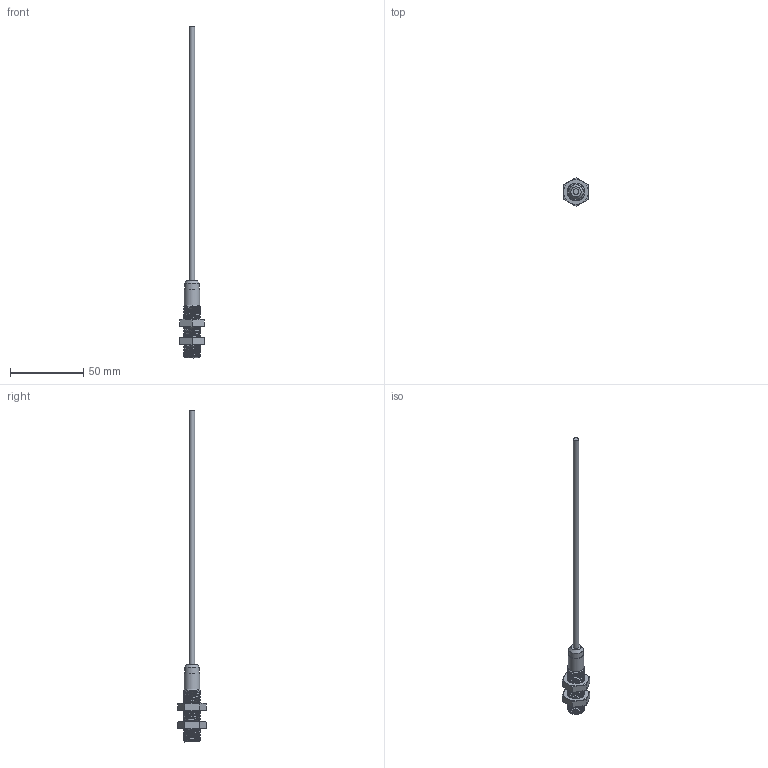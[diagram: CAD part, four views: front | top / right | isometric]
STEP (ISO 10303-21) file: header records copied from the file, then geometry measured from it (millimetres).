
FILE_DESCRIPTION(/* description */ (''),/* implementation_level */ '2;1');
FILE_NAME(/* name */ 'Cat_SENS_ROS_12261_HAL_A_2-Hall-Sensor M12.stp',/* time_stamp */ '2020-02-14T07:59:06+01:00',/* author */ (''),/* organization */ (''),/* preprocessor_version */ 'ST-DEVELOPER v16',/* originating_system */ 'SIEMENS PLM Software NX 11.0',/* authorisation */ '');
FILE_SCHEMA (('AP203_CONFIGURATION_CONTROLLED_3D_DESIGN_OF_MECHANICAL_PARTS_AND_ASSEMBLIES_MIM_LF { 1 0 10303 403 2 1 2}'));
Length unit declared in the file: millimetre
Products named in the file (1): hi2n81F80B0Aof2n
Bounding box: 17 x 19.63 x 227 mm (x, y, z)
Volume: 1541.2 mm3; surface area: 6586.5 mm2
Topology: 2 solids, 3 shells, 42 faces, 98 edges, 64 vertices
Faces by surface type: plane 22, cone 11, cylinder 7, bspline 2
Full cylindrical faces by diameter (mm): 3.8 x1, 10 x1, 10.5 x1, 10.92 x2
Entity records: 5569 total; most frequent: CARTESIAN_POINT 4648, DIRECTION 159, ORIENTED_EDGE 152, EDGE_CURVE 76, AXIS2_PLACEMENT_3D 66, EDGE_LOOP 61, VERTEX_POINT 55, ADVANCED_FACE 42
